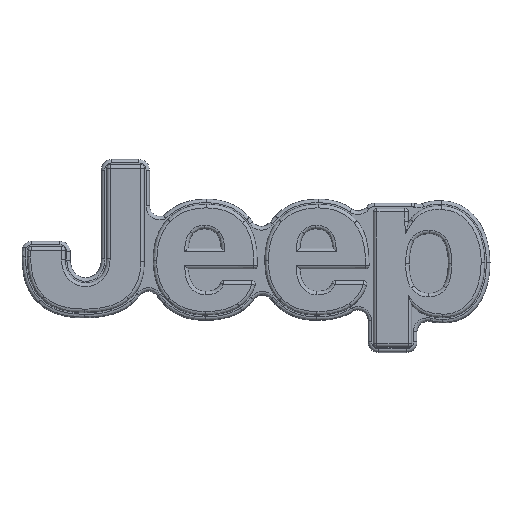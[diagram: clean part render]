
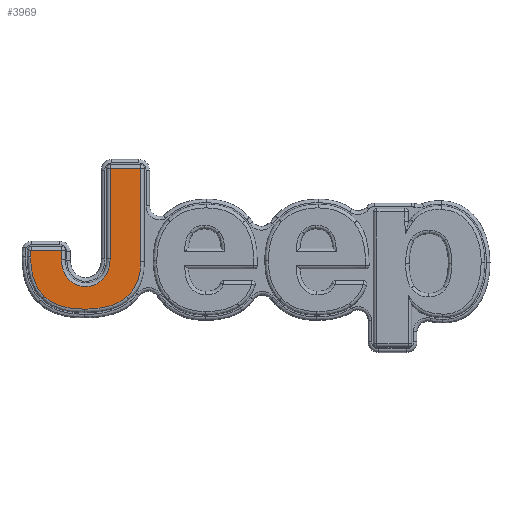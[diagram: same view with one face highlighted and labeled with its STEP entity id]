
A CAD part, top view. The second image highlights one B-rep face of the part: STEP entity #3969.
In plain terms, the highlighted planar face has unit normal (0, 0, 1).
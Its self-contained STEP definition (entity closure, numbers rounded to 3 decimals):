
#239=B_SPLINE_CURVE_WITH_KNOTS('',3,(#8389,#8390,#8391,#8392),
 .UNSPECIFIED.,.F.,.F.,(4,4),(-0.192,0.),
 .UNSPECIFIED.);
#242=B_SPLINE_CURVE_WITH_KNOTS('',3,(#8469,#8470,#8471,#8472,#8473,#8474),
 .UNSPECIFIED.,.F.,.F.,(4,1,1,4),(-1.215,-0.868,
-0.521,0.),.UNSPECIFIED.);
#247=B_SPLINE_CURVE_WITH_KNOTS('',3,(#8522,#8523,#8524,#8525,#8526,#8527),
 .UNSPECIFIED.,.F.,.F.,(4,1,1,4),(-1.243,-0.711,-0.355,
0.),.UNSPECIFIED.);
#248=B_SPLINE_CURVE_WITH_KNOTS('',3,(#8529,#8530,#8531,#8532,#8533,#8534),
 .UNSPECIFIED.,.F.,.F.,(4,1,1,4),(-1.273,-0.909,
-0.546,0.),.UNSPECIFIED.);
#249=B_SPLINE_CURVE_WITH_KNOTS('',3,(#8535,#8536,#8537,#8538,#8539,#8540),
 .UNSPECIFIED.,.F.,.F.,(4,1,1,4),(-1.117,-0.479,
-0.319,0.),.UNSPECIFIED.);
#250=B_SPLINE_CURVE_WITH_KNOTS('',3,(#8541,#8542,#8543,#8544,#8545,#8546,
#8547,#8548,#8549,#8550),.UNSPECIFIED.,.F.,.F.,(4,1,1,1,1,1,1,4),(-2.322,
-1.99,-1.658,-1.327,-0.995,
-0.663,-0.332,0.),.UNSPECIFIED.);
#504=PLANE('',#4245);
#529=LINE('',#5052,#705);
#531=LINE('',#5059,#707);
#536=LINE('',#5077,#712);
#542=LINE('',#5099,#718);
#544=LINE('',#5106,#720);
#705=VECTOR('',#4381,10.);
#707=VECTOR('',#4389,10.);
#712=VECTOR('',#4410,10.);
#718=VECTOR('',#4432,10.);
#720=VECTOR('',#4440,10.);
#1050=FACE_OUTER_BOUND('',#1314,.T.);
#1314=EDGE_LOOP('',(#3149,#3150,#3151,#3152,#3153,#3154,#3155,#3156,#3157,
#3158,#3159));
#1596=VERTEX_POINT('',#5035);
#1601=VERTEX_POINT('',#5051);
#1603=VERTEX_POINT('',#5057);
#1608=VERTEX_POINT('',#5075);
#1611=VERTEX_POINT('',#5082);
#1616=VERTEX_POINT('',#5098);
#1618=VERTEX_POINT('',#5104);
#1795=VERTEX_POINT('',#8387);
#1797=VERTEX_POINT('',#8428);
#1800=VERTEX_POINT('',#8521);
#1801=VERTEX_POINT('',#8528);
#1971=EDGE_CURVE('',#1596,#1601,#529,.T.);
#1975=EDGE_CURVE('',#1603,#1596,#531,.T.);
#1984=EDGE_CURVE('',#1608,#1603,#536,.T.);
#1994=EDGE_CURVE('',#1611,#1616,#542,.T.);
#1998=EDGE_CURVE('',#1618,#1611,#544,.T.);
#2287=EDGE_CURVE('',#1795,#1618,#239,.T.);
#2290=EDGE_CURVE('',#1797,#1795,#242,.T.);
#2296=EDGE_CURVE('',#1800,#1797,#247,.T.);
#2297=EDGE_CURVE('',#1801,#1800,#248,.T.);
#2298=EDGE_CURVE('',#1601,#1801,#249,.T.);
#2299=EDGE_CURVE('',#1616,#1608,#250,.T.);
#3149=ORIENTED_EDGE('',*,*,#2287,.F.);
#3150=ORIENTED_EDGE('',*,*,#2290,.F.);
#3151=ORIENTED_EDGE('',*,*,#2296,.F.);
#3152=ORIENTED_EDGE('',*,*,#2297,.F.);
#3153=ORIENTED_EDGE('',*,*,#2298,.F.);
#3154=ORIENTED_EDGE('',*,*,#1971,.F.);
#3155=ORIENTED_EDGE('',*,*,#1975,.F.);
#3156=ORIENTED_EDGE('',*,*,#1984,.F.);
#3157=ORIENTED_EDGE('',*,*,#2299,.F.);
#3158=ORIENTED_EDGE('',*,*,#1994,.F.);
#3159=ORIENTED_EDGE('',*,*,#1998,.F.);
#3969=ADVANCED_FACE('',(#1050),#504,.T.);
#4245=AXIS2_PLACEMENT_3D('',#8520,#4724,#4725);
#4381=DIRECTION('',(0.,-1.,0.));
#4389=DIRECTION('',(1.,0.,0.));
#4410=DIRECTION('',(0.,1.,0.));
#4432=DIRECTION('',(0.,-1.,0.));
#4440=DIRECTION('',(1.,0.,0.));
#4724=DIRECTION('center_axis',(0.,0.,1.));
#4725=DIRECTION('ref_axis',(1.,0.,0.));
#5035=CARTESIAN_POINT('',(-33.717,26.839,7.));
#5051=CARTESIAN_POINT('',(-33.717,0.256,7.));
#5052=CARTESIAN_POINT('',(-33.717,3.523,7.));
#5057=CARTESIAN_POINT('',(-42.445,26.839,7.));
#5059=CARTESIAN_POINT('',(-41.039,26.839,7.));
#5075=CARTESIAN_POINT('',(-42.445,1.11,7.));
#5077=CARTESIAN_POINT('',(-42.445,17.315,7.));
#5082=CARTESIAN_POINT('',(-56.233,3.537,7.));
#5098=CARTESIAN_POINT('',(-56.233,0.73,7.));
#5099=CARTESIAN_POINT('',(-56.233,3.761,7.));
#5104=CARTESIAN_POINT('',(-64.932,3.537,7.));
#5106=CARTESIAN_POINT('',(-52.296,3.537,7.));
#8387=CARTESIAN_POINT('',(-65.003,1.622,7.));
#8389=CARTESIAN_POINT('Ctrl Pts',(-65.003,1.622,7.));
#8390=CARTESIAN_POINT('Ctrl Pts',(-65.003,2.261,7.));
#8391=CARTESIAN_POINT('Ctrl Pts',(-64.968,2.899,7.));
#8392=CARTESIAN_POINT('Ctrl Pts',(-64.932,3.537,7.));
#8428=CARTESIAN_POINT('',(-61.254,-9.592,7.));
#8469=CARTESIAN_POINT('Ctrl Pts',(-61.254,-9.592,7.));
#8470=CARTESIAN_POINT('Ctrl Pts',(-62.082,-8.784,7.));
#8471=CARTESIAN_POINT('Ctrl Pts',(-63.449,-6.879,7.));
#8472=CARTESIAN_POINT('Ctrl Pts',(-64.765,-3.015,7.));
#8473=CARTESIAN_POINT('Ctrl Pts',(-65.003,-0.113,
7.));
#8474=CARTESIAN_POINT('Ctrl Pts',(-65.003,1.622,7.));
#8520=CARTESIAN_POINT('Origin',(-49.36,6.791,7.));
#8521=CARTESIAN_POINT('',(-49.693,-13.258,7.));
#8522=CARTESIAN_POINT('Ctrl Pts',(-49.693,-13.258,7.));
#8523=CARTESIAN_POINT('Ctrl Pts',(-51.47,-13.258,7.));
#8524=CARTESIAN_POINT('Ctrl Pts',(-54.438,-13.028,7.));
#8525=CARTESIAN_POINT('Ctrl Pts',(-58.414,-11.757,7.));
#8526=CARTESIAN_POINT('Ctrl Pts',(-60.404,-10.417,7.));
#8527=CARTESIAN_POINT('Ctrl Pts',(-61.254,-9.592,7.));
#8528=CARTESIAN_POINT('',(-37.718,-9.787,7.));
#8529=CARTESIAN_POINT('Ctrl Pts',(-37.718,-9.787,7.));
#8530=CARTESIAN_POINT('Ctrl Pts',(-38.64,-10.575,7.));
#8531=CARTESIAN_POINT('Ctrl Pts',(-40.74,-11.836,7.));
#8532=CARTESIAN_POINT('Ctrl Pts',(-44.837,-13.037,7.));
#8533=CARTESIAN_POINT('Ctrl Pts',(-47.875,-13.258,7.));
#8534=CARTESIAN_POINT('Ctrl Pts',(-49.693,-13.258,7.));
#8535=CARTESIAN_POINT('Ctrl Pts',(-33.717,0.256,7.));
#8536=CARTESIAN_POINT('Ctrl Pts',(-33.717,-1.873,7.));
#8537=CARTESIAN_POINT('Ctrl Pts',(-34.102,-4.568,7.));
#8538=CARTESIAN_POINT('Ctrl Pts',(-35.85,-7.88,7.));
#8539=CARTESIAN_POINT('Ctrl Pts',(-36.909,-9.095,7.));
#8540=CARTESIAN_POINT('Ctrl Pts',(-37.718,-9.787,7.));
#8541=CARTESIAN_POINT('Ctrl Pts',(-56.233,0.73,7.));
#8542=CARTESIAN_POINT('Ctrl Pts',(-56.233,-0.375,7.));
#8543=CARTESIAN_POINT('Ctrl Pts',(-55.896,-2.601,7.));
#8544=CARTESIAN_POINT('Ctrl Pts',(-53.984,-5.439,7.));
#8545=CARTESIAN_POINT('Ctrl Pts',(-50.908,-6.955,7.));
#8546=CARTESIAN_POINT('Ctrl Pts',(-47.496,-6.843,7.));
#8547=CARTESIAN_POINT('Ctrl Pts',(-44.529,-5.127,7.));
#8548=CARTESIAN_POINT('Ctrl Pts',(-42.755,-2.218,7.));
#8549=CARTESIAN_POINT('Ctrl Pts',(-42.445,0.005,
7.));
#8550=CARTESIAN_POINT('Ctrl Pts',(-42.445,1.11,7.));
